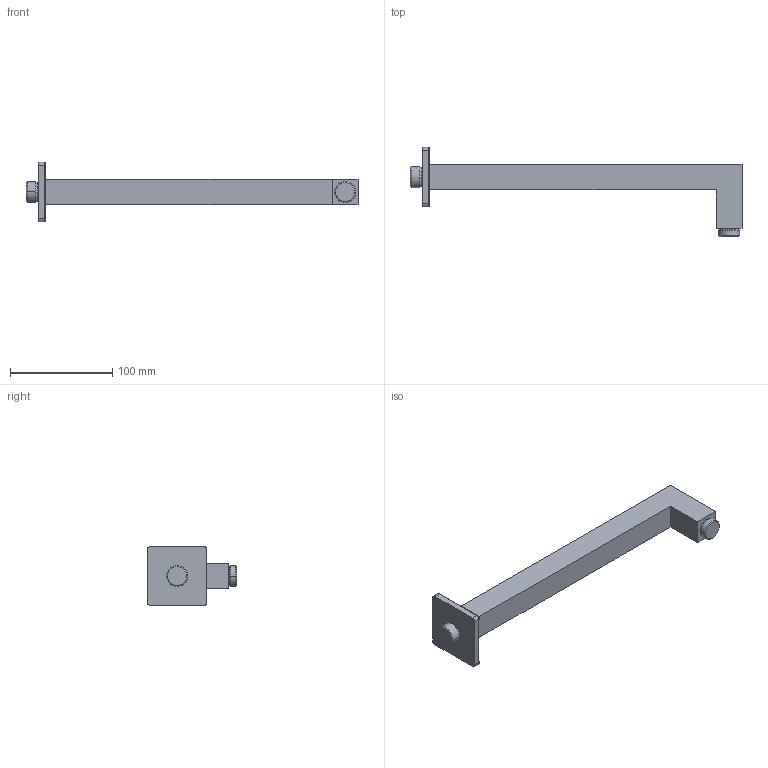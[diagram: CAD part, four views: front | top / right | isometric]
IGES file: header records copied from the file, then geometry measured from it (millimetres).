
Start section:  PTC IGES file: 90951.igs
Global section: file name: 90951.igs; native system: Creo Parametric by PTC Inc.; preprocessor: 2018100; author: carloff; organization: Unknown; date: 20210705.111716; units: millimetre
Bounding box: 324.5 x 87 x 58 mm (x, y, z)
Surface area: 43866.2 mm2 (no closed solid volume)
Topology: 0 solids, 0 shells, 43 faces, 188 edges, 188 vertices
Faces by surface type: revolution 28, bspline 15
